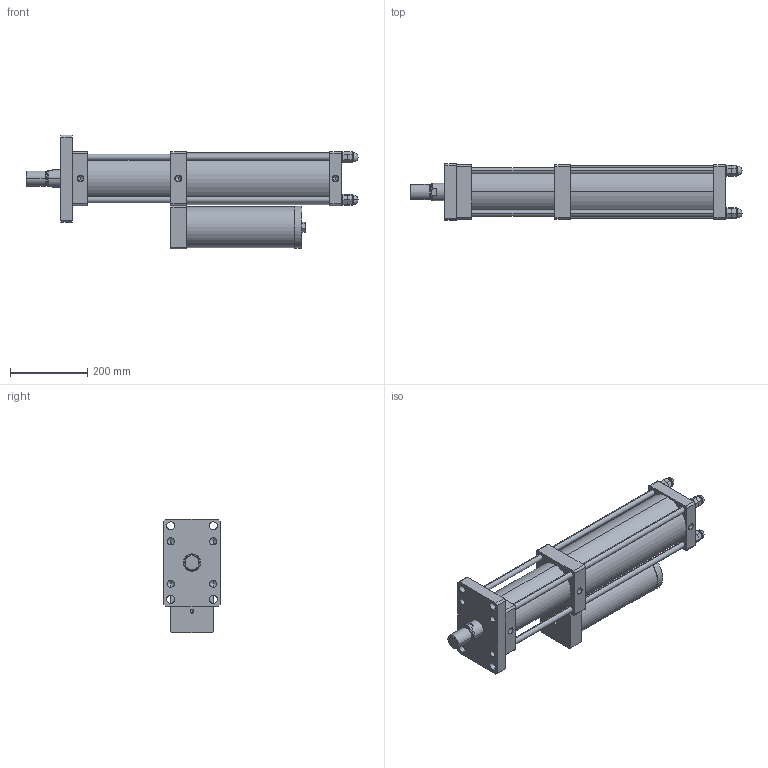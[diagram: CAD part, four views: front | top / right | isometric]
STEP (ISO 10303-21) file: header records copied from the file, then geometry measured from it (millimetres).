
FILE_DESCRIPTION (( 'STEP AP203' ), '1' );
FILE_NAME ('MPT-100-100-20-13T.STEP', '2016-03-28T10:19:33', ( 'WIN' ), ( '' ), 'SwSTEP 2.0', 'SolidWorks 2014', '' );
FILE_SCHEMA (( 'CONFIG_CONTROL_DESIGN' ));
Length unit declared in the file: millimetre
Products named in the file (1): MPT-100-100-20-13T
Bounding box: 859 x 145 x 294.5 mm (x, y, z)
Volume: 14311205.7 mm3; surface area: 848303 mm2
Topology: 13 solids, 13 shells, 400 faces, 980 edges, 555 vertices
Faces by surface type: plane 188, cylinder 80, torus 48, bspline 48, cone 36
Entity records: 12751 total; most frequent: CARTESIAN_POINT 3688, DIRECTION 1936, ORIENTED_EDGE 1812, EDGE_CURVE 906, AXIS2_PLACEMENT_3D 727, VERTEX_POINT 555, LINE 482, VECTOR 482
